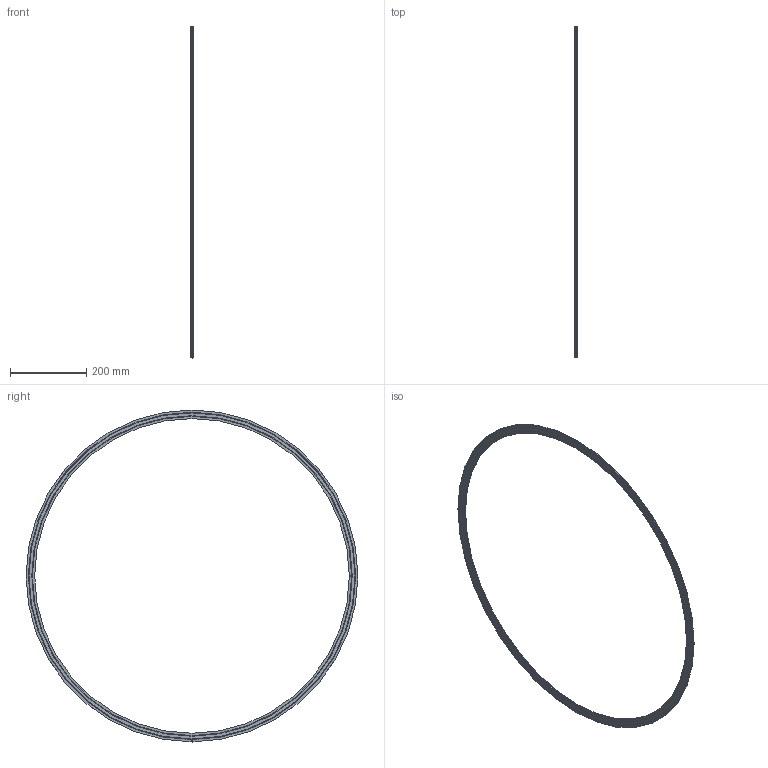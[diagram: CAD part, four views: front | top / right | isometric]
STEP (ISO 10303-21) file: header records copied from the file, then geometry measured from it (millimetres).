
FILE_DESCRIPTION((''),'2;1');
FILE_NAME('W:\212-330.stp','2004-01-08T16:31:48',('KAA'),(''),'Autodesk Inventor (R) 6.0','Autodesk Inventor (R) 6.0','');
FILE_SCHEMA(('CONFIG_CONTROL_DESIGN'));
Length unit declared in the file: millimetre
Products named in the file (1): 212-330
Bounding box: 5.6 x 870 x 870.4 mm (x, y, z)
Volume: 294887.6 mm3; surface area: 178444.2 mm2
Topology: 2 solids, 2 shells, 64 faces, 187 edges, 127 vertices
Faces by surface type: cylinder 24, plane 20, torus 12, bspline 8
Entity records: 2917 total; most frequent: CARTESIAN_POINT 1011, DIRECTION 412, ORIENTED_EDGE 390, EDGE_CURVE 195, AXIS2_PLACEMENT_3D 176, VERTEX_POINT 127, CIRCLE 119, EDGE_LOOP 66
